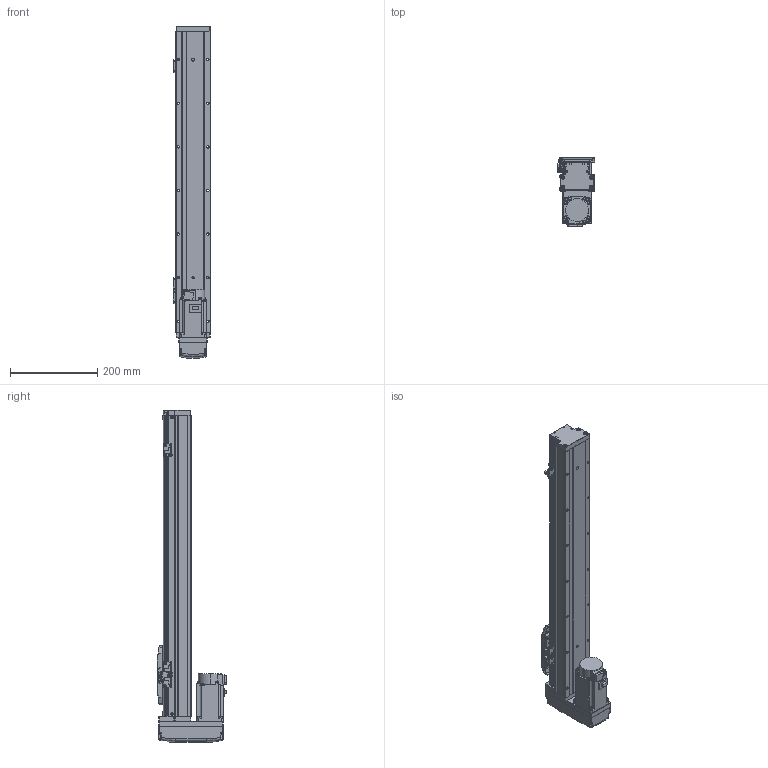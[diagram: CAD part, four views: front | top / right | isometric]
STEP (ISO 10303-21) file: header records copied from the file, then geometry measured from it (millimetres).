
FILE_DESCRIPTION (( 'STEP AP203' ), '1' );
FILE_NAME ('GTH8-500-BM-M20-C4.step', '2022-09-23T01:05:35', ( '微软用户' ), ( '微软中国' ), 'SwSTEP 2.0', 'SolidWorks 2020', '' );
FILE_SCHEMA (( 'CONFIG_CONTROL_DESIGN' ));
Length unit declared in the file: millimetre
Products named in the file (18): BTH-M3X5X6; GTH80-001_500; GBT 70.1-M3℅6; hg-kn43j_-s100_; GTH80-003; GBT 70.1-M4×16; CTHA86-015-1_CTHA86-015-2; GTH80-004; GTH80-028; CTHA86-033_M40B; GTH80-006; GTH50-024; GTH8-500-BM-M20-C4; GTH80-013; GTH50-023; GBT 70.3-M3℅6; GBT96.1-2002 3×0.8; GTH80-022
Assembly tree (57 placements, depth 2):
  GTH8-500-BM-M20-C4
    GTH80-001_500
    GTH80-003
    GTH80-004
    GTH80-006
    GTH80-013
    GBT 70.3-M3℅6  x4
    GTH80-022
    GBT 70.1-M3℅6  x14
    GBT 70.1-M4×16  x8
    GTH80-028  x2
    GTH50-024  x3
    GTH50-023  x3
    GBT96.1-2002 3×0.8  x6
    BTH-M3X5X6  x8
    hg-kn43j_-s100_
    CTHA86-015-1_CTHA86-015-2
    CTHA86-033_M40B
Bounding box: 86.9 x 160.3 x 761 mm (x, y, z)
Volume: 3978255.8 mm3; surface area: 429577.9 mm2
Topology: 59 solids, 59 shells, 2236 faces, 5163 edges, 3163 vertices
Faces by surface type: plane 1187, cylinder 607, cone 260, torus 166, bspline 8, sphere 8
Entity records: 40774 total; most frequent: CARTESIAN_POINT 7169, DIRECTION 6621, ORIENTED_EDGE 6144, EDGE_CURVE 3072, AXIS2_PLACEMENT_3D 2313, VECTOR 1995, LINE 1995, VERTEX_POINT 1938
